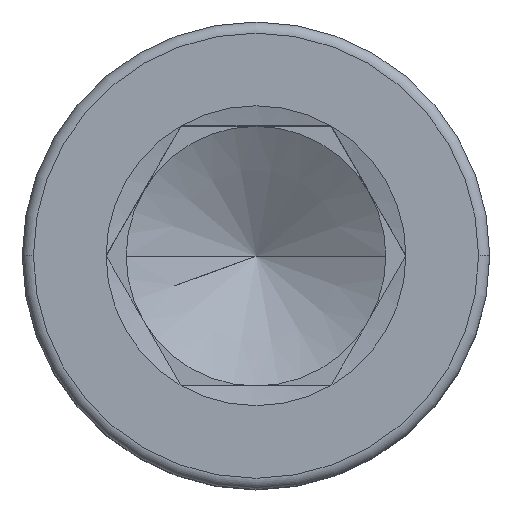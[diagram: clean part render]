
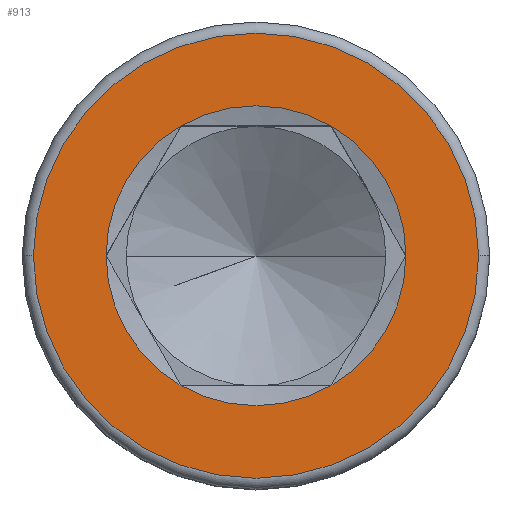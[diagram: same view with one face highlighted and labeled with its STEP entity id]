
A CAD part, top view. The second image highlights one B-rep face of the part: STEP entity #913.
In plain terms, the highlighted planar face has unit normal (0, 0, 1).
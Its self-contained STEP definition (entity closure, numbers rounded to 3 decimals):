
#44 = CARTESIAN_POINT ( 'NONE',  ( 0., 0., 12. ) ) ;
#61 = EDGE_CURVE ( 'NONE', #685, #492, #1660, .T. ) ;
#80 = DIRECTION ( 'NONE',  ( 1., 0., 0. ) ) ;
#96 = AXIS2_PLACEMENT_3D ( 'NONE', #1126, #595, #1701 ) ;
#105 = ORIENTED_EDGE ( 'NONE', *, *, #960, .F. ) ;
#109 = CARTESIAN_POINT ( 'NONE',  ( -5.774, 0., 12. ) ) ;
#141 = DIRECTION ( 'NONE',  ( 1., 0., 0. ) ) ;
#144 = FACE_BOUND ( 'NONE', #1720, .T. ) ;
#157 = ORIENTED_EDGE ( 'NONE', *, *, #1107, .T. ) ;
#164 = EDGE_CURVE ( 'NONE', #1545, #1632, #593, .T. ) ;
#177 = PLANE ( 'NONE',  #96 ) ;
#201 = CARTESIAN_POINT ( 'NONE',  ( 0., 0., 12. ) ) ;
#221 = ORIENTED_EDGE ( 'NONE', *, *, #1248, .F. ) ;
#272 = CIRCLE ( 'NONE', #1112, 5.774 ) ;
#282 = DIRECTION ( 'NONE',  ( 0., 0., 1. ) ) ;
#289 = CARTESIAN_POINT ( 'NONE',  ( 0., 0., 12. ) ) ;
#298 = AXIS2_PLACEMENT_3D ( 'NONE', #1406, #1567, #849 ) ;
#330 = ORIENTED_EDGE ( 'NONE', *, *, #972, .F. ) ;
#346 = CARTESIAN_POINT ( 'NONE',  ( -8.57, 0., 12. ) ) ;
#362 = AXIS2_PLACEMENT_3D ( 'NONE', #976, #282, #1493 ) ;
#381 = VERTEX_POINT ( 'NONE', #411 ) ;
#405 = ORIENTED_EDGE ( 'NONE', *, *, #164, .F. ) ;
#411 = CARTESIAN_POINT ( 'NONE',  ( 8.57, 0., 12. ) ) ;
#443 = ORIENTED_EDGE ( 'NONE', *, *, #1625, .T. ) ;
#492 = VERTEX_POINT ( 'NONE', #109 ) ;
#506 = AXIS2_PLACEMENT_3D ( 'NONE', #1732, #1182, #1334 ) ;
#508 = CIRCLE ( 'NONE', #1192, 5.774 ) ;
#580 = DIRECTION ( 'NONE',  ( 1., 0., 0. ) ) ;
#584 = ORIENTED_EDGE ( 'NONE', *, *, #61, .F. ) ;
#593 = CIRCLE ( 'NONE', #1277, 5.774 ) ;
#595 = DIRECTION ( 'NONE',  ( 0., 0., 1. ) ) ;
#622 = DIRECTION ( 'NONE',  ( 0., 0., 1. ) ) ;
#639 = VERTEX_POINT ( 'NONE', #1296 ) ;
#685 = VERTEX_POINT ( 'NONE', #1190 ) ;
#695 = EDGE_CURVE ( 'NONE', #492, #1350, #1372, .T. ) ;
#728 = DIRECTION ( 'NONE',  ( 0., 0., 1. ) ) ;
#743 = CARTESIAN_POINT ( 'NONE',  ( 0., 0., 12. ) ) ;
#758 = ORIENTED_EDGE ( 'NONE', *, *, #695, .F. ) ;
#783 = VERTEX_POINT ( 'NONE', #346 ) ;
#849 = DIRECTION ( 'NONE',  ( 1., 0., 0. ) ) ;
#861 = DIRECTION ( 'NONE',  ( 0., 0., 1. ) ) ;
#889 = DIRECTION ( 'NONE',  ( 0., 0., 1. ) ) ;
#913 = ADVANCED_FACE ( 'NONE', ( #1658, #144 ), #177, .T. ) ;
#919 = CIRCLE ( 'NONE', #1142, 8.57 ) ;
#960 = EDGE_CURVE ( 'NONE', #1350, #639, #272, .T. ) ;
#972 = EDGE_CURVE ( 'NONE', #1632, #685, #508, .T. ) ;
#976 = CARTESIAN_POINT ( 'NONE',  ( 0., 0., 12. ) ) ;
#1032 = CARTESIAN_POINT ( 'NONE',  ( 2.887, 5., 12. ) ) ;
#1074 = EDGE_LOOP ( 'NONE', ( #157, #443 ) ) ;
#1107 = EDGE_CURVE ( 'NONE', #381, #783, #1690, .T. ) ;
#1112 = AXIS2_PLACEMENT_3D ( 'NONE', #44, #861, #580 ) ;
#1126 = CARTESIAN_POINT ( 'NONE',  ( 0., 0., 12. ) ) ;
#1142 = AXIS2_PLACEMENT_3D ( 'NONE', #201, #1177, #1735 ) ;
#1154 = CARTESIAN_POINT ( 'NONE',  ( 5.774, 0., 12. ) ) ;
#1177 = DIRECTION ( 'NONE',  ( 0., 0., 1. ) ) ;
#1182 = DIRECTION ( 'NONE',  ( 0., 0., 1. ) ) ;
#1190 = CARTESIAN_POINT ( 'NONE',  ( -2.887, 5., 12. ) ) ;
#1192 = AXIS2_PLACEMENT_3D ( 'NONE', #743, #728, #1261 ) ;
#1248 = EDGE_CURVE ( 'NONE', #639, #1545, #1283, .T. ) ;
#1261 = DIRECTION ( 'NONE',  ( 1., 0., 0. ) ) ;
#1277 = AXIS2_PLACEMENT_3D ( 'NONE', #289, #889, #141 ) ;
#1283 = CIRCLE ( 'NONE', #362, 5.774 ) ;
#1296 = CARTESIAN_POINT ( 'NONE',  ( 2.887, -5., 12. ) ) ;
#1334 = DIRECTION ( 'NONE',  ( 1., 0., 0. ) ) ;
#1350 = VERTEX_POINT ( 'NONE', #1691 ) ;
#1372 = CIRCLE ( 'NONE', #506, 5.774 ) ;
#1406 = CARTESIAN_POINT ( 'NONE',  ( 0., 0., 12. ) ) ;
#1467 = CARTESIAN_POINT ( 'NONE',  ( 0., 0., 12. ) ) ;
#1493 = DIRECTION ( 'NONE',  ( 1., 0., 0. ) ) ;
#1545 = VERTEX_POINT ( 'NONE', #1154 ) ;
#1567 = DIRECTION ( 'NONE',  ( 0., 0., 1. ) ) ;
#1625 = EDGE_CURVE ( 'NONE', #783, #381, #919, .T. ) ;
#1632 = VERTEX_POINT ( 'NONE', #1032 ) ;
#1658 = FACE_OUTER_BOUND ( 'NONE', #1074, .T. ) ;
#1660 = CIRCLE ( 'NONE', #298, 5.774 ) ;
#1690 = CIRCLE ( 'NONE', #1776, 8.57 ) ;
#1691 = CARTESIAN_POINT ( 'NONE',  ( -2.887, -5., 12. ) ) ;
#1701 = DIRECTION ( 'NONE',  ( 1., 0., 0. ) ) ;
#1720 = EDGE_LOOP ( 'NONE', ( #405, #221, #105, #758, #584, #330 ) ) ;
#1732 = CARTESIAN_POINT ( 'NONE',  ( 0., 0., 12. ) ) ;
#1735 = DIRECTION ( 'NONE',  ( 1., 0., 0. ) ) ;
#1776 = AXIS2_PLACEMENT_3D ( 'NONE', #1467, #622, #80 ) ;
